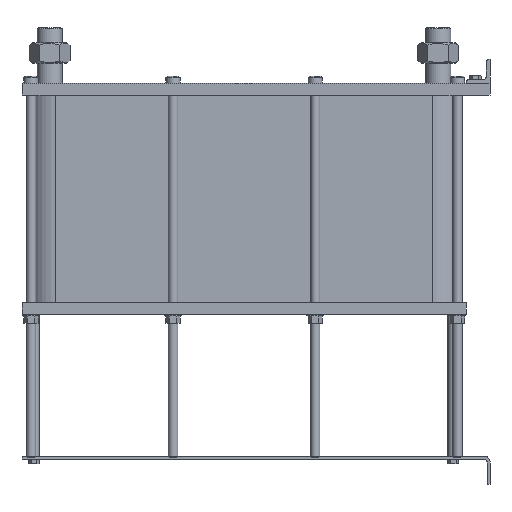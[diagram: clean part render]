
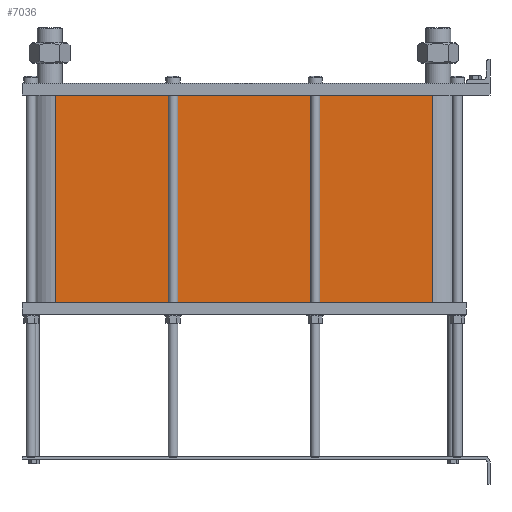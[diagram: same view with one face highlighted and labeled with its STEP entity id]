
A CAD part, left-side view. The second image highlights one B-rep face of the part: STEP entity #7036.
In plain terms, the highlighted planar face has unit normal (-1, 0, 0).
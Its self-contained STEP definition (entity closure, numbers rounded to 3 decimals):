
#999=LINE('',#15640,#1553);
#1031=LINE('',#15723,#1585);
#1032=LINE('',#15726,#1586);
#1033=LINE('',#15727,#1587);
#1553=VECTOR('',#9658,10.);
#1585=VECTOR('',#9736,10.);
#1586=VECTOR('',#9741,10.);
#1587=VECTOR('',#9742,10.);
#2117=FACE_OUTER_BOUND('',#2671,.T.);
#2671=EDGE_LOOP('',(#6246,#6247,#6248,#6249));
#3527=VERTEX_POINT('',#15634);
#3529=VERTEX_POINT('',#15638);
#3556=VERTEX_POINT('',#15720);
#3557=VERTEX_POINT('',#15722);
#4425=EDGE_CURVE('',#3529,#3527,#999,.T.);
#4466=EDGE_CURVE('',#3557,#3556,#1031,.T.);
#4468=EDGE_CURVE('',#3527,#3556,#1032,.T.);
#4469=EDGE_CURVE('',#3557,#3529,#1033,.T.);
#6246=ORIENTED_EDGE('',*,*,#4468,.F.);
#6247=ORIENTED_EDGE('',*,*,#4425,.F.);
#6248=ORIENTED_EDGE('',*,*,#4469,.F.);
#6249=ORIENTED_EDGE('',*,*,#4466,.T.);
#6608=PLANE('',#7812);
#7036=ADVANCED_FACE('',(#2117),#6608,.T.);
#7812=AXIS2_PLACEMENT_3D('',#15725,#9739,#9740);
#9658=DIRECTION('',(0.,0.,-1.));
#9736=DIRECTION('',(0.,0.,-1.));
#9739=DIRECTION('center_axis',(-1.,0.,0.));
#9740=DIRECTION('ref_axis',(0.,1.,0.));
#9741=DIRECTION('',(0.,1.,0.));
#9742=DIRECTION('',(0.,-1.,0.));
#15634=CARTESIAN_POINT('',(-72.,97.5,-350.3));
#15638=CARTESIAN_POINT('',(-72.,97.5,0.));
#15640=CARTESIAN_POINT('',(-72.,97.5,0.));
#15720=CARTESIAN_POINT('',(-72.,733.5,-350.3));
#15722=CARTESIAN_POINT('',(-72.,733.5,0.));
#15723=CARTESIAN_POINT('',(-72.,733.5,0.));
#15725=CARTESIAN_POINT('Origin',(-72.,97.5,0.));
#15726=CARTESIAN_POINT('',(-72.,256.5,-350.3));
#15727=CARTESIAN_POINT('',(-72.,733.5,0.));
